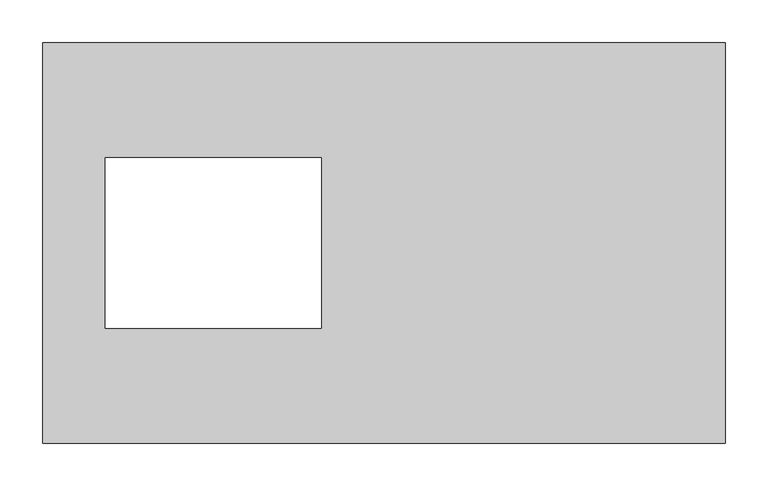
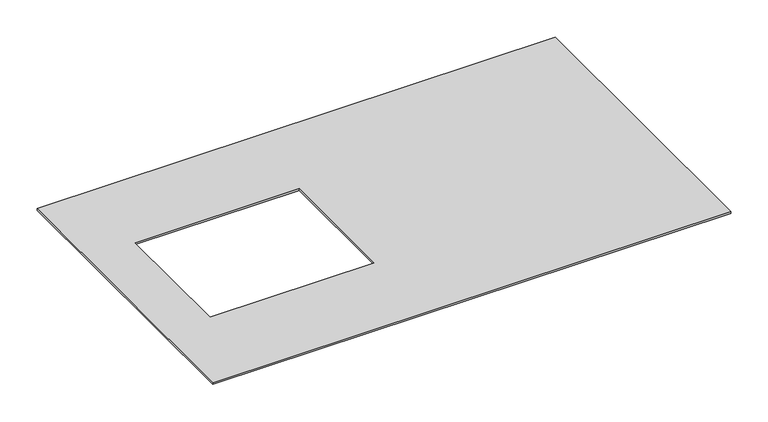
"""IFC4 building model written with IfcOpenShell, lengths in millimetres: proxy geometry, Electrical_Installation_Hager_Cover-E09-BKA : Electrical_Installation_Hager_Cover-E09-BKA."""

from ifc_helpers import new_model, si_unit, frame, origin, place, context, project, spatial, polyline, outline, extrude, source, transform, mapped, element, save


def electrical_fixtures_4e8a14d8(model_context):
    return source(origin(), model_context, "Body", "SweptSolid", [
        extrude(outline(polyline([(800.0, 234.75), (800.0, -234.75), (0.0, -234.75), (0.0, 234.75), (800.0, 234.75)]), holes=[polyline([(326.5, 100.0), (73.5, 100.0), (73.5, -100.0), (326.5, -100.0), (326.5, 100.0)])]), frame((0.0, 0.0, 10.0), z_axis=(0.0, 0.0, 1.0), x_axis=(1.0, 0.0, 0.0)), (0.0, 0.0, 1.0), 3.0),
    ])


if __name__ == "__main__":
    model = new_model("IFC4")
    model_context = context("Model", 3, world=origin())
    ifc_project = project(units=[si_unit("LENGTHUNIT", "METRE", prefix="MILLI")], contexts=[model_context])
    site = spatial("IfcSite", under=ifc_project)
    building = spatial("IfcBuilding", under=site)
    placement = place(None, origin())
    electrical_fixtures_shape = electrical_fixtures_4e8a14d8(model_context)
    element("IfcBuildingElementProxy", 1, Name="Electrical_Installation_Hager_Cover-E09-BKA : Electrical_Installation_Hager_Cover-E09-BKA", ObjectType="Electrical_Installation_Hager_Cover-E09-BKA : Electrical_Installation_Hager_Cover-E09-BKA", at=placement, inside=building, context=model_context, shape_type="MappedRepresentation", body=[
        mapped(electrical_fixtures_shape, transform((0.0, 0.0, 0.0), x_axis=(1.0, 0.0, 0.0), y_axis=(0.0, 1.0, 0.0), z_axis=(0.0, 0.0, 1.0))),
    ])
    save(model, "model.ifc")
